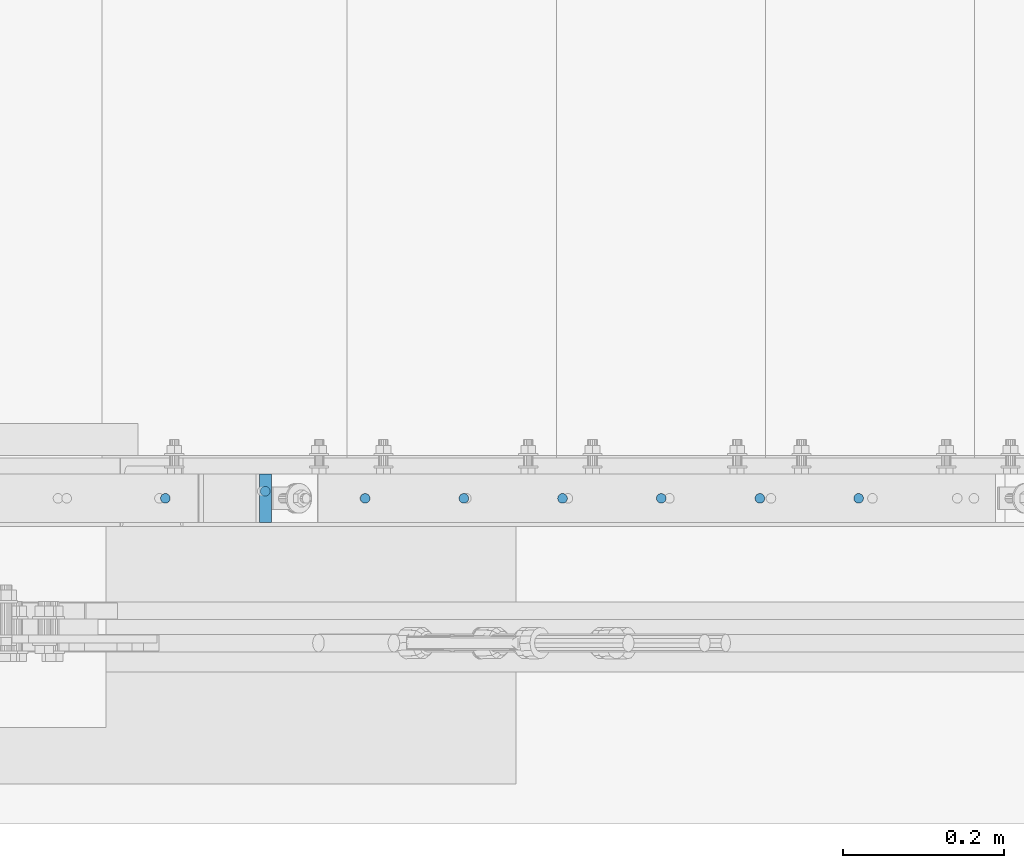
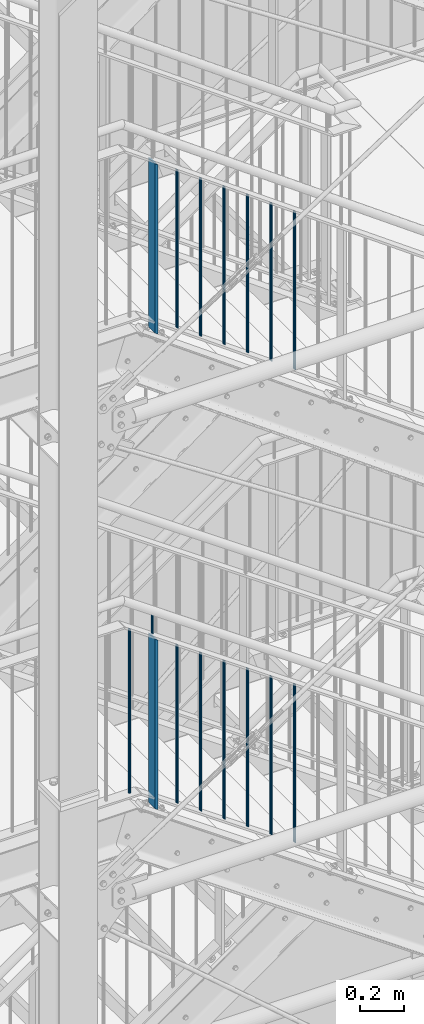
# One storey, part 33 of 821: 16 columns.
"""IFC2X3 building model written with IfcOpenShell, lengths in millimetres."""

from ifc_helpers import new_model, entity, si_unit, converted_unit, frame, origin, origin_with_axes, origin_2d, place, context, project, spatial, rectangle, circle, extrude, clip, halfspace, material, element, save


model = new_model("IFC2X3")

# Units and contexts
model_context = context("Model", 3, precision=1e-09, world=origin_with_axes())
ifc_project = project(units=[si_unit("LENGTHUNIT", "METRE", prefix="MILLI"), si_unit("AREAUNIT", "SQUARE_METRE"), si_unit("VOLUMEUNIT", "CUBIC_METRE"), converted_unit("PLANEANGLEUNIT", "DEGREE", entity("IfcPlaneAngleMeasure", 0.01745329), si_unit("PLANEANGLEUNIT", "RADIAN"), dimensions=[0, 0, 0, 0, 0, 0, 0])], contexts=[model_context])

# Site, building, storey
site_placement = place(None, origin_with_axes())
site = spatial("IfcSite", under=ifc_project, at=site_placement, Name="Cnopf'sche Kinderklinik", CompositionType="ELEMENT")
building_placement = place(site_placement, origin_with_axes())
building = spatial("IfcBuilding", under=site, at=building_placement, Name="Struktur 1", CompositionType="ELEMENT")
storey_placement = place(building_placement, origin_with_axes())
storey = spatial("IfcBuildingStorey", under=building, at=storey_placement, Name="Default Storey", CompositionType="ELEMENT", Elevation=0.0)

# Columns
ifc_material = material(Name="S235JR")
column_1_placement = place(None, frame((5394.791831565, 4526.736971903, 8248.52685731), z_axis=(0.0, 0.0, 1.0), x_axis=(-1.0, 0.0, 0.0)))
element("IfcColumn", 1, at=column_1_placement, inside=storey, material=ifc_material, Name="Railing_Post_Stair#11", ObjectType="Railing_Post_Stair#11", context=model_context, shape_type="Clipping", body=[
    clip(clip(extrude(rectangle(XDim=15.0, YDim=60.0, at=origin_2d()), origin(), (0.0, 0.0, -1.0), 1013.014378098), halfspace(frame((188.311809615, 4526.736971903, -842.822478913), z_axis=(-0.57512827, 0.0, 0.818063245), x_axis=(0.0, -1.0, 0.0)), True)), halfspace(frame((-252.73177147, 4526.736971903, -215.481479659), z_axis=(0.57512827, 0.0, -0.818063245), x_axis=(0.0, 1.0, 0.0)), True)),
])
column_2_placement = place(None, frame((6132.791950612, 4526.736971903, 7702.257672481), z_axis=(0.0, 0.0, 1.0), x_axis=(-1.0, 0.0, 0.0)))
element("IfcColumn", 2, at=column_2_placement, inside=storey, material=ifc_material, Name="Railing_Picket_Stair#70", ObjectType="Railing_Picket_Stair#70", context=model_context, shape_type="Clipping", body=[
    clip(clip(extrude(circle(Radius=6.0, at=origin_2d()), origin(), (0.0, 0.0, -1.0), 897.037988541), halfspace(frame((485.268347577, 4526.736971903, 330.78770517), z_axis=(0.57512827, 0.0, -0.818063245), x_axis=(0.0, 1.0, 0.0)), True)), halfspace(frame((897.555515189, 4526.736971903, -255.650131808), z_axis=(-0.57512827, 0.0, 0.818063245), x_axis=(0.0, -1.0, 0.0)), True)),
])
column_3_placement = place(None, frame((6010.041926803, 4526.736971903, 7788.555411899), z_axis=(0.0, 0.0, 1.0), x_axis=(-1.0, 0.0, 0.0)))
element("IfcColumn", 3, at=column_3_placement, inside=storey, material=ifc_material, Name="Railing_Picket_Stair#71", ObjectType="Railing_Picket_Stair#71", context=model_context, shape_type="Clipping", body=[
    clip(clip(extrude(circle(Radius=6.0, at=origin_2d()), origin(), (0.0, 0.0, -1.0), 897.037988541), halfspace(frame((362.518323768, 4526.736971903, 244.489965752), z_axis=(0.57512827, 0.0, -0.818063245), x_axis=(0.0, 1.0, 0.0)), True)), halfspace(frame((774.805491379, 4526.736971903, -341.947871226), z_axis=(-0.57512827, 0.0, 0.818063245), x_axis=(0.0, -1.0, 0.0)), True)),
])
column_4_placement = place(None, frame((5887.291902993, 4526.736971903, 7874.853151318), z_axis=(0.0, 0.0, 1.0), x_axis=(-1.0, 0.0, 0.0)))
element("IfcColumn", 4, at=column_4_placement, inside=storey, material=ifc_material, Name="Railing_Picket_Stair#72", ObjectType="Railing_Picket_Stair#72", context=model_context, shape_type="Clipping", body=[
    clip(clip(extrude(circle(Radius=6.0, at=origin_2d()), origin(), (0.0, 0.0, -1.0), 897.037988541), halfspace(frame((239.768299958, 4526.736971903, 158.192226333), z_axis=(0.57512827, 0.0, -0.818063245), x_axis=(0.0, 1.0, 0.0)), True)), halfspace(frame((652.05546757, 4526.736971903, -428.245610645), z_axis=(-0.57512827, 0.0, 0.818063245), x_axis=(0.0, -1.0, 0.0)), True)),
])
column_5_placement = place(None, frame((5764.541879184, 4526.736971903, 7961.150890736), z_axis=(0.0, 0.0, 1.0), x_axis=(-1.0, 0.0, 0.0)))
element("IfcColumn", 5, at=column_5_placement, inside=storey, material=ifc_material, Name="Railing_Picket_Stair#73", ObjectType="Railing_Picket_Stair#73", context=model_context, shape_type="Clipping", body=[
    clip(clip(extrude(circle(Radius=6.0, at=origin_2d()), origin(), (0.0, 0.0, -1.0), 897.037988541), halfspace(frame((117.018276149, 4526.736971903, 71.894486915), z_axis=(0.57512827, 0.0, -0.818063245), x_axis=(0.0, 1.0, 0.0)), True)), halfspace(frame((529.30544376, 4526.736971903, -514.543350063), z_axis=(-0.57512827, 0.0, 0.818063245), x_axis=(0.0, -1.0, 0.0)), True)),
])
column_6_placement = place(None, frame((5641.791855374, 4526.736971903, 8047.448630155), z_axis=(0.0, 0.0, 1.0), x_axis=(-1.0, 0.0, 0.0)))
element("IfcColumn", 6, at=column_6_placement, inside=storey, material=ifc_material, Name="Railing_Picket_Stair#74", ObjectType="Railing_Picket_Stair#74", context=model_context, shape_type="Clipping", body=[
    clip(clip(extrude(circle(Radius=6.0, at=origin_2d()), origin(), (0.0, 0.0, -1.0), 897.037988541), halfspace(frame((-5.731747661, 4526.736971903, -14.403252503), z_axis=(0.57512827, 0.0, -0.818063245), x_axis=(0.0, 1.0, 0.0)), True)), halfspace(frame((406.555419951, 4526.736971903, -600.841089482), z_axis=(-0.57512827, 0.0, 0.818063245), x_axis=(0.0, -1.0, 0.0)), True)),
])
column_7_placement = place(None, frame((5519.041831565, 4526.736971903, 8133.746369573), z_axis=(0.0, 0.0, 1.0), x_axis=(-1.0, 0.0, 0.0)))
element("IfcColumn", 7, at=column_7_placement, inside=storey, material=ifc_material, Name="Railing_Picket_Stair#75", ObjectType="Railing_Picket_Stair#75", context=model_context, shape_type="Clipping", body=[
    clip(clip(extrude(circle(Radius=6.0, at=origin_2d()), origin(), (0.0, 0.0, -1.0), 897.037988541), halfspace(frame((-128.48177147, 4526.736971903, -100.700991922), z_axis=(0.57512827, 0.0, -0.818063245), x_axis=(0.0, 1.0, 0.0)), True)), halfspace(frame((283.805396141, 4526.736971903, -687.1388289), z_axis=(-0.57512827, 0.0, 0.818063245), x_axis=(0.0, -1.0, 0.0)), True)),
])
column_8_placement = place(None, frame((5270.541831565, 4526.736971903, 8308.450924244), z_axis=(0.0, 0.0, 1.0), x_axis=(-1.0, 0.0, 0.0)))
element("IfcColumn", 8, at=column_8_placement, inside=storey, material=ifc_material, Name="Railing_Picket_Landing#76", ObjectType="Railing_Picket_Landing#76", context=model_context, shape_type="Clipping", body=[
    clip(extrude(circle(Radius=6.0, at=origin_2d()), origin(), (0.0, 0.0, -1.0), 918.450924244), halfspace(frame((-376.98177147, 4526.736971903, -275.405546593), z_axis=(0.57512827, 0.0, -0.818063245), x_axis=(0.0, 1.0, 0.0)), True)),
])
column_9_placement = place(None, frame((5394.791831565, 4535.536971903, 8333.322640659), z_axis=(0.0, 0.0, 1.0), x_axis=(0.0, 1.0, 0.0)))
element("IfcColumn", 9, at=column_9_placement, inside=storey, material=ifc_material, Name="Bar#11", ObjectType="Bar#11", context=model_context, shape_type="Clipping", body=[
    clip(clip(extrude(circle(Radius=6.0, at=origin_2d()), origin(), (0.0, 0.0, -1.0), 120.744805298), halfspace(frame((-4535.536971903, -305.532184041, -225.1738832), z_axis=(0.0, 0.57512827, -0.818063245), x_axis=(-1.0, 0.0, 0.0)), True)), halfspace(frame((-4535.536971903, -258.484204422, -292.094994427), z_axis=(0.0, -0.57512827, 0.818063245), x_axis=(1.0, 0.0, 0.0)), True)),
])
column_10_placement = place(None, frame((5394.791831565, 4526.736971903, 10877.355669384), z_axis=(0.0, 0.0, 1.0), x_axis=(-1.0, 0.0, 0.0)))
element("IfcColumn", 10, at=column_10_placement, inside=storey, material=ifc_material, Name="Railing_Post_Stair#11", ObjectType="Railing_Post_Stair#11", context=model_context, shape_type="Clipping", body=[
    clip(clip(extrude(rectangle(XDim=15.0, YDim=60.0, at=origin_2d()), origin(), (0.0, 0.0, -1.0), 1013.13824851), halfspace(frame((-1159.274559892, 4526.736971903, -1813.221298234), z_axis=(-0.585945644, 0.0, 0.810350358), x_axis=(0.0, -1.0, 0.0)), True)), halfspace(frame((-1604.094233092, 4526.736971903, -1198.045154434), z_axis=(0.585945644, 0.0, -0.810350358), x_axis=(0.0, 1.0, 0.0)), True)),
])
column_11_placement = place(None, frame((6132.791950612, 4526.736971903, 10316.03554289), z_axis=(0.0, 0.0, 1.0), x_axis=(-1.0, 0.0, 0.0)))
element("IfcColumn", 11, at=column_11_placement, inside=storey, material=ifc_material, Name="Railing_Picket_Stair#70", ObjectType="Railing_Picket_Stair#70", context=model_context, shape_type="Clipping", body=[
    clip(clip(extrude(circle(Radius=6.0, at=origin_2d()), origin(), (0.0, 0.0, -1.0), 896.05799959), halfspace(frame((-866.094114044, 4526.736971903, -636.72502794), z_axis=(0.585945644, 0.0, -0.810350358), x_axis=(0.0, 1.0, 0.0)), True)), halfspace(frame((-450.571723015, 4526.736971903, -1211.383653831), z_axis=(-0.585945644, 0.0, 0.810350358), x_axis=(0.0, -1.0, 0.0)), True)),
])
column_12_placement = place(None, frame((6010.041926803, 4526.736971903, 10404.793252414), z_axis=(0.0, 0.0, 1.0), x_axis=(-1.0, 0.0, 0.0)))
element("IfcColumn", 12, at=column_12_placement, inside=storey, material=ifc_material, Name="Railing_Picket_Stair#71", ObjectType="Railing_Picket_Stair#71", context=model_context, shape_type="Clipping", body=[
    clip(clip(extrude(circle(Radius=6.0, at=origin_2d()), origin(), (0.0, 0.0, -1.0), 896.05799959), halfspace(frame((-988.844137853, 4526.736971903, -725.482737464), z_axis=(0.585945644, 0.0, -0.810350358), x_axis=(0.0, 1.0, 0.0)), True)), halfspace(frame((-573.321746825, 4526.736971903, -1300.141363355), z_axis=(-0.585945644, 0.0, 0.810350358), x_axis=(0.0, -1.0, 0.0)), True)),
])
column_13_placement = place(None, frame((5887.291902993, 4526.736971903, 10493.550961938), z_axis=(0.0, 0.0, 1.0), x_axis=(-1.0, 0.0, 0.0)))
element("IfcColumn", 13, at=column_13_placement, inside=storey, material=ifc_material, Name="Railing_Picket_Stair#72", ObjectType="Railing_Picket_Stair#72", context=model_context, shape_type="Clipping", body=[
    clip(clip(extrude(circle(Radius=6.0, at=origin_2d()), origin(), (0.0, 0.0, -1.0), 896.05799959), halfspace(frame((-1111.594161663, 4526.736971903, -814.240446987), z_axis=(0.585945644, 0.0, -0.810350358), x_axis=(0.0, 1.0, 0.0)), True)), halfspace(frame((-696.071770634, 4526.736971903, -1388.899072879), z_axis=(-0.585945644, 0.0, 0.810350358), x_axis=(0.0, -1.0, 0.0)), True)),
])
column_14_placement = place(None, frame((5764.541879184, 4526.736971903, 10582.308671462), z_axis=(0.0, 0.0, 1.0), x_axis=(-1.0, 0.0, 0.0)))
element("IfcColumn", 14, at=column_14_placement, inside=storey, material=ifc_material, Name="Railing_Picket_Stair#73", ObjectType="Railing_Picket_Stair#73", context=model_context, shape_type="Clipping", body=[
    clip(clip(extrude(circle(Radius=6.0, at=origin_2d()), origin(), (0.0, 0.0, -1.0), 896.05799959), halfspace(frame((-1234.344185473, 4526.736971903, -902.998156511), z_axis=(0.585945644, 0.0, -0.810350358), x_axis=(0.0, 1.0, 0.0)), True)), halfspace(frame((-818.821794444, 4526.736971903, -1477.656782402), z_axis=(-0.585945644, 0.0, 0.810350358), x_axis=(0.0, -1.0, 0.0)), True)),
])
column_15_placement = place(None, frame((5641.791855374, 4526.736971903, 10671.066380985), z_axis=(0.0, 0.0, 1.0), x_axis=(-1.0, 0.0, 0.0)))
element("IfcColumn", 15, at=column_15_placement, inside=storey, material=ifc_material, Name="Railing_Picket_Stair#74", ObjectType="Railing_Picket_Stair#74", context=model_context, shape_type="Clipping", body=[
    clip(clip(extrude(circle(Radius=6.0, at=origin_2d()), origin(), (0.0, 0.0, -1.0), 896.05799959), halfspace(frame((-1357.094209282, 4526.736971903, -991.755866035), z_axis=(0.585945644, 0.0, -0.810350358), x_axis=(0.0, 1.0, 0.0)), True)), halfspace(frame((-941.571818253, 4526.736971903, -1566.414491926), z_axis=(-0.585945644, 0.0, 0.810350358), x_axis=(0.0, -1.0, 0.0)), True)),
])
column_16_placement = place(None, frame((5519.041831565, 4526.736971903, 10759.824090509), z_axis=(0.0, 0.0, 1.0), x_axis=(-1.0, 0.0, 0.0)))
element("IfcColumn", 16, at=column_16_placement, inside=storey, material=ifc_material, Name="Railing_Picket_Stair#75", ObjectType="Railing_Picket_Stair#75", context=model_context, shape_type="Clipping", body=[
    clip(clip(extrude(circle(Radius=6.0, at=origin_2d()), origin(), (0.0, 0.0, -1.0), 896.05799959), halfspace(frame((-1479.844233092, 4526.736971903, -1080.513575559), z_axis=(0.585945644, 0.0, -0.810350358), x_axis=(0.0, 1.0, 0.0)), True)), halfspace(frame((-1064.321842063, 4526.736971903, -1655.17220145), z_axis=(-0.585945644, 0.0, 0.810350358), x_axis=(0.0, -1.0, 0.0)), True)),
])

save(model, "model.ifc")
